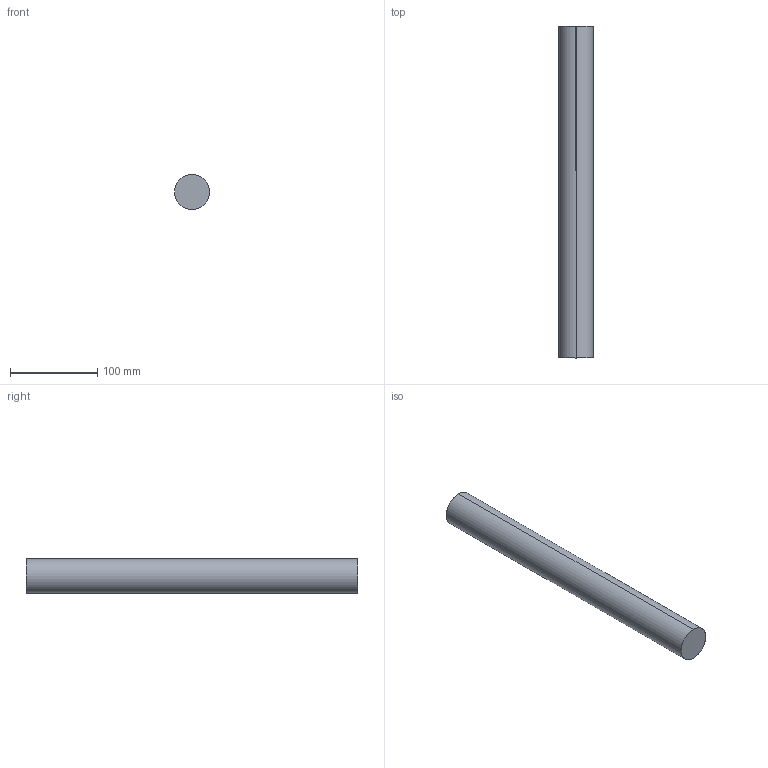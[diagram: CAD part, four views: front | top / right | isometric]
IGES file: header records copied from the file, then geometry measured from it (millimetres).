
Start section: SolidWorks IGES file using analytic representation for surfaces
Global section: file name: C:\Users\sebas\Documents\SOLIDWORKSComposer\TESIS\3. Dosificadora\IGS\Eje del dosificador.IGS; native system: SolidWorks 2022; preprocessor: SolidWorks 2022; author: sebas; date: 220619.065826; units: millimetre
Bounding box: 40 x 380 x 40 mm (x, y, z)
Surface area: 50265.5 mm2 (no closed solid volume)
Topology: 0 solids, 0 shells, 4 faces, 136 edges, 136 vertices
Faces by surface type: revolution 2, bspline 2
